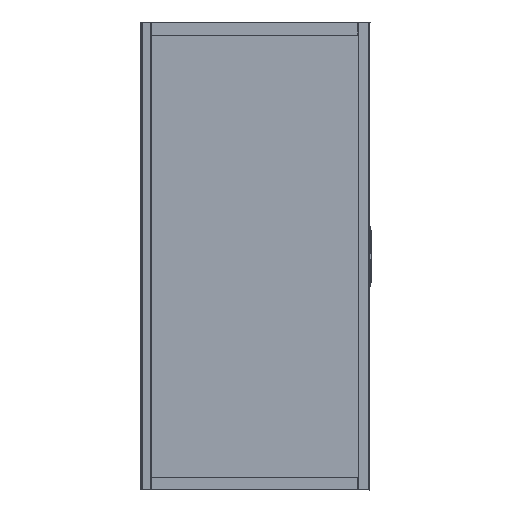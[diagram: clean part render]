
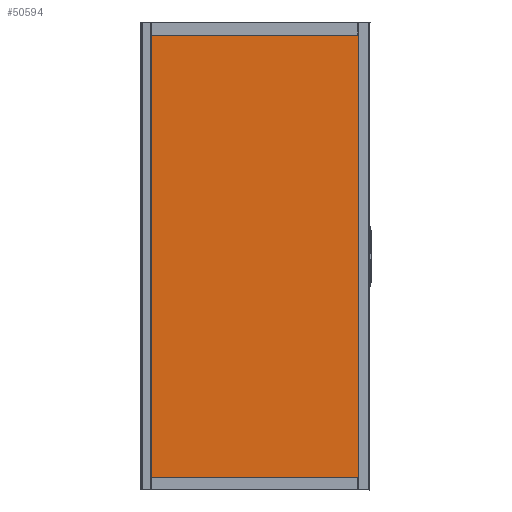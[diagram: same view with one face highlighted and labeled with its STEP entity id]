
A CAD part, front view. The second image highlights one B-rep face of the part: STEP entity #50594.
In plain terms, the highlighted planar face has unit normal (0, -1, 0).
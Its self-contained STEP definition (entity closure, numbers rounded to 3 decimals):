
#3114=LINE($,#85868,#7455);
#3310=LINE($,#86521,#7651);
#3342=LINE($,#86637,#7683);
#3381=LINE($,#86736,#7722);
#3383=LINE($,#86740,#7724);
#3384=LINE($,#86742,#7725);
#3430=LINE($,#86833,#7771);
#3822=LINE($,#88111,#8163);
#3850=LINE($,#88178,#8191);
#3896=LINE($,#88310,#8237);
#3899=LINE($,#88316,#8240);
#3903=LINE($,#88323,#8244);
#3915=LINE($,#88342,#8256);
#3916=LINE($,#88345,#8257);
#3919=LINE($,#88350,#8260);
#3920=LINE($,#88352,#8261);
#3921=LINE($,#88353,#8262);
#3922=LINE($,#88354,#8263);
#3923=LINE($,#88355,#8264);
#3924=LINE($,#88356,#8265);
#3925=LINE($,#88357,#8266);
#7455=VECTOR($,#62597,1908.);
#7651=VECTOR($,#63067,884.);
#7683=VECTOR($,#63137,884.);
#7722=VECTOR($,#63226,884.);
#7724=VECTOR($,#63232,0.446);
#7725=VECTOR($,#63233,7.);
#7771=VECTOR($,#63313,1907.);
#8163=VECTOR($,#64383,884.);
#8191=VECTOR($,#64437,884.);
#8237=VECTOR($,#64545,884.);
#8240=VECTOR($,#64550,8.15);
#8244=VECTOR($,#64556,7.85);
#8256=VECTOR($,#64572,7.85);
#8257=VECTOR($,#64575,1.);
#8260=VECTOR($,#64580,8.15);
#8261=VECTOR($,#64583,0.446);
#8262=VECTOR($,#64584,0.446);
#8263=VECTOR($,#64585,0.446);
#8264=VECTOR($,#64586,7.);
#8265=VECTOR($,#64587,7.);
#8266=VECTOR($,#64588,7.);
#10640=PLANE($,#54481);
#12254=FACE_BOUND($,#16758,.T.);
#12255=FACE_BOUND($,#16759,.T.);
#12256=FACE_BOUND($,#16760,.T.);
#16758=EDGE_LOOP($,(#39974,#39975,#39976,#39977));
#16759=EDGE_LOOP($,(#39978,#39979,#39980,#39981));
#16760=EDGE_LOOP($,(#39982,#39983,#39984,#39985,#39986,#39987,#39988,#39989,
#39990,#39991,#39992,#39993,#39994));
#22603=VERTEX_POINT($,#85866);
#22604=VERTEX_POINT($,#85867);
#22807=VERTEX_POINT($,#86519);
#22808=VERTEX_POINT($,#86520);
#22842=VERTEX_POINT($,#86635);
#22843=VERTEX_POINT($,#86636);
#22877=VERTEX_POINT($,#86733);
#22878=VERTEX_POINT($,#86735);
#22879=VERTEX_POINT($,#86741);
#22906=VERTEX_POINT($,#86831);
#22907=VERTEX_POINT($,#86832);
#23315=VERTEX_POINT($,#88109);
#23316=VERTEX_POINT($,#88110);
#23341=VERTEX_POINT($,#88176);
#23342=VERTEX_POINT($,#88177);
#23384=VERTEX_POINT($,#88307);
#23385=VERTEX_POINT($,#88309);
#23386=VERTEX_POINT($,#88313);
#23389=VERTEX_POINT($,#88320);
#23395=VERTEX_POINT($,#88344);
#23396=VERTEX_POINT($,#88348);
#28240=EDGE_CURVE($,#22603,#22604,#3114,.T.);
#28512=EDGE_CURVE($,#22807,#22808,#3310,.T.);
#28555=EDGE_CURVE($,#22842,#22843,#3342,.T.);
#28607=EDGE_CURVE($,#22877,#22878,#3381,.T.);
#28610=EDGE_CURVE($,#22843,#22807,#3383,.T.);
#28611=EDGE_CURVE($,#22878,#22879,#3384,.T.);
#28659=EDGE_CURVE($,#22906,#22907,#3430,.T.);
#29247=EDGE_CURVE($,#23315,#23316,#3822,.T.);
#29279=EDGE_CURVE($,#23341,#23342,#3850,.T.);
#29345=EDGE_CURVE($,#23384,#23385,#3896,.T.);
#29348=EDGE_CURVE($,#22907,#23386,#3899,.T.);
#29352=EDGE_CURVE($,#23389,#22603,#3903,.T.);
#29364=EDGE_CURVE($,#22604,#22879,#3915,.T.);
#29365=EDGE_CURVE($,#23395,#22906,#3916,.T.);
#29368=EDGE_CURVE($,#23396,#23395,#3919,.T.);
#29369=EDGE_CURVE($,#22808,#22842,#3920,.T.);
#29370=EDGE_CURVE($,#23316,#23341,#3921,.T.);
#29371=EDGE_CURVE($,#23342,#23315,#3922,.T.);
#29372=EDGE_CURVE($,#23389,#23384,#3923,.T.);
#29373=EDGE_CURVE($,#23396,#22877,#3924,.T.);
#29374=EDGE_CURVE($,#23385,#23386,#3925,.T.);
#39974=ORIENTED_EDGE($,*,*,#28512,.T.);
#39975=ORIENTED_EDGE($,*,*,#29369,.T.);
#39976=ORIENTED_EDGE($,*,*,#28555,.T.);
#39977=ORIENTED_EDGE($,*,*,#28610,.T.);
#39978=ORIENTED_EDGE($,*,*,#29247,.T.);
#39979=ORIENTED_EDGE($,*,*,#29370,.T.);
#39980=ORIENTED_EDGE($,*,*,#29279,.T.);
#39981=ORIENTED_EDGE($,*,*,#29371,.T.);
#39982=ORIENTED_EDGE($,*,*,#29372,.F.);
#39983=ORIENTED_EDGE($,*,*,#29352,.T.);
#39984=ORIENTED_EDGE($,*,*,#28240,.T.);
#39985=ORIENTED_EDGE($,*,*,#29364,.T.);
#39986=ORIENTED_EDGE($,*,*,#28611,.F.);
#39987=ORIENTED_EDGE($,*,*,#28607,.F.);
#39988=ORIENTED_EDGE($,*,*,#29373,.F.);
#39989=ORIENTED_EDGE($,*,*,#29368,.T.);
#39990=ORIENTED_EDGE($,*,*,#29365,.T.);
#39991=ORIENTED_EDGE($,*,*,#28659,.T.);
#39992=ORIENTED_EDGE($,*,*,#29348,.T.);
#39993=ORIENTED_EDGE($,*,*,#29374,.F.);
#39994=ORIENTED_EDGE($,*,*,#29345,.F.);
#50594=ADVANCED_FACE($,(#12254,#12255,#12256),#10640,.T.);
#54481=AXIS2_PLACEMENT_3D($,#88351,#64581,#64582);
#62597=DIRECTION($,(0.,0.,-1.));
#63067=DIRECTION($,(1.,0.,0.));
#63137=DIRECTION($,(-1.,0.,0.));
#63226=DIRECTION($,(-1.,0.,0.));
#63232=DIRECTION($,(0.,0.,1.));
#63233=DIRECTION($,(0.,0.,-1.));
#63313=DIRECTION($,(0.,0.,1.));
#64383=DIRECTION($,(-1.,0.,0.));
#64437=DIRECTION($,(1.,0.,0.));
#64545=DIRECTION($,(1.,0.,0.));
#64550=DIRECTION($,(-1.,0.,0.));
#64556=DIRECTION($,(-1.,0.,0.));
#64572=DIRECTION($,(1.,0.,0.));
#64575=DIRECTION($,(0.,0.,1.));
#64580=DIRECTION($,(1.,0.,0.));
#64581=DIRECTION('center_axis',(0.,-1.,0.));
#64582=DIRECTION('ref_axis',(1.,0.,0.));
#64583=DIRECTION($,(0.,0.,-1.));
#64584=DIRECTION($,(0.,0.,1.));
#64585=DIRECTION($,(0.,0.,-1.));
#64586=DIRECTION($,(0.,0.,-1.));
#64587=DIRECTION($,(0.,0.,1.));
#64588=DIRECTION($,(0.,0.,1.));
#85866=CARTESIAN_POINT('',(-216.361,-1098.159,2908.14));
#85867=CARTESIAN_POINT('',(-216.361,-1098.159,1000.14));
#85868=CARTESIAN_POINT($,(-216.361,-1098.159,2908.14));
#86519=CARTESIAN_POINT('',(-208.511,-1098.159,1008.713));
#86520=CARTESIAN_POINT('',(675.489,-1098.159,1008.713));
#86521=CARTESIAN_POINT($,(-208.511,-1098.159,1008.713));
#86635=CARTESIAN_POINT('',(675.489,-1098.159,1008.266));
#86636=CARTESIAN_POINT('',(-208.511,-1098.159,1008.266));
#86637=CARTESIAN_POINT($,(-208.511,-1098.159,1008.266));
#86733=CARTESIAN_POINT('',(675.489,-1098.159,1007.14));
#86735=CARTESIAN_POINT('',(-208.511,-1098.159,1007.14));
#86736=CARTESIAN_POINT($,(342.064,-1098.159,1007.14));
#86740=CARTESIAN_POINT($,(-208.511,-1098.159,1717.023));
#86741=CARTESIAN_POINT('',(-208.511,-1098.159,1000.14));
#86742=CARTESIAN_POINT($,(-208.511,-1098.159,1706.465));
#86831=CARTESIAN_POINT('',(683.639,-1098.159,1001.14));
#86832=CARTESIAN_POINT('',(683.639,-1098.159,2908.14));
#86833=CARTESIAN_POINT($,(683.639,-1098.159,1000.14));
#88109=CARTESIAN_POINT('',(675.489,-1098.159,2899.567));
#88110=CARTESIAN_POINT('',(-208.511,-1098.159,2899.567));
#88111=CARTESIAN_POINT($,(675.489,-1098.159,2899.567));
#88176=CARTESIAN_POINT('',(-208.511,-1098.159,2900.013));
#88177=CARTESIAN_POINT('',(675.489,-1098.159,2900.013));
#88178=CARTESIAN_POINT($,(675.489,-1098.159,2900.013));
#88307=CARTESIAN_POINT('',(-208.511,-1098.159,2901.14));
#88309=CARTESIAN_POINT('',(675.489,-1098.159,2901.14));
#88310=CARTESIAN_POINT($,(-99.936,-1098.159,2901.14));
#88313=CARTESIAN_POINT('',(675.489,-1098.159,2908.14));
#88316=CARTESIAN_POINT($,(683.639,-1098.159,2908.14));
#88320=CARTESIAN_POINT('',(-208.511,-1098.159,2908.14));
#88323=CARTESIAN_POINT($,(683.639,-1098.159,2908.14));
#88342=CARTESIAN_POINT($,(-216.361,-1098.159,1000.14));
#88344=CARTESIAN_POINT('',(683.639,-1098.159,1000.14));
#88345=CARTESIAN_POINT($,(683.639,-1098.159,1000.14));
#88348=CARTESIAN_POINT('',(675.489,-1098.159,1000.14));
#88350=CARTESIAN_POINT($,(-216.361,-1098.159,1000.14));
#88351=CARTESIAN_POINT('Origin',(8.639,-1098.159,2431.14));
#88352=CARTESIAN_POINT($,(675.489,-1098.159,1717.023));
#88353=CARTESIAN_POINT($,(-208.511,-1098.159,2668.256));
#88354=CARTESIAN_POINT($,(675.489,-1098.159,2668.256));
#88355=CARTESIAN_POINT($,(-208.511,-1098.159,2678.815));
#88356=CARTESIAN_POINT($,(675.489,-1098.159,1706.465));
#88357=CARTESIAN_POINT($,(675.489,-1098.159,2678.815));
